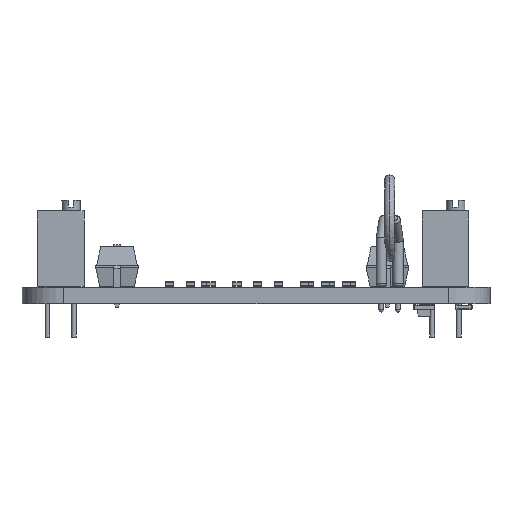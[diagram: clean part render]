
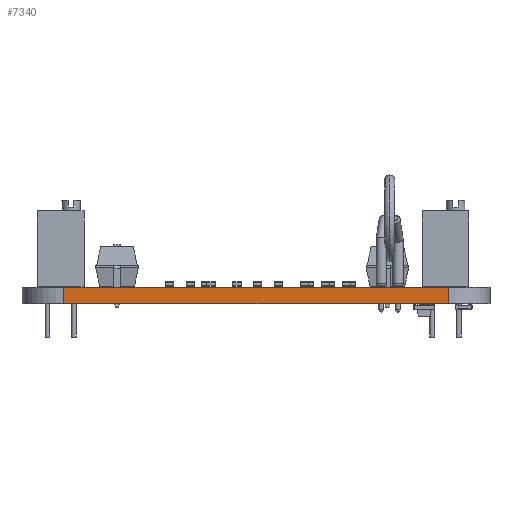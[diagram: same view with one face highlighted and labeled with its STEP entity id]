
A CAD part, left-side view. The second image highlights one B-rep face of the part: STEP entity #7340.
In plain terms, the highlighted planar face has unit normal (-1, 0, 0).
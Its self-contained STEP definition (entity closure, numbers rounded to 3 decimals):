
#6281 = VERTEX_POINT('',#6282);
#6282 = CARTESIAN_POINT('',(79.9,-60.325,0.));
#6289 = EDGE_CURVE('',#6290,#6281,#6292,.T.);
#6290 = VERTEX_POINT('',#6291);
#6291 = CARTESIAN_POINT('',(79.9,-97.325,0.));
#6292 = LINE('',#6293,#6294);
#6293 = CARTESIAN_POINT('',(79.9,-97.325,0.));
#6294 = VECTOR('',#6295,1.);
#6295 = DIRECTION('',(0.,1.,0.));
#6797 = VERTEX_POINT('',#6798);
#6798 = CARTESIAN_POINT('',(79.9,-60.325,1.6));
#6805 = EDGE_CURVE('',#6806,#6797,#6808,.T.);
#6806 = VERTEX_POINT('',#6807);
#6807 = CARTESIAN_POINT('',(79.9,-97.325,1.6));
#6808 = LINE('',#6809,#6810);
#6809 = CARTESIAN_POINT('',(79.9,-97.325,1.6));
#6810 = VECTOR('',#6811,1.);
#6811 = DIRECTION('',(0.,1.,0.));
#7310 = EDGE_CURVE('',#6281,#6797,#7311,.T.);
#7311 = LINE('',#7312,#7313);
#7312 = CARTESIAN_POINT('',(79.9,-60.325,0.));
#7313 = VECTOR('',#7314,1.);
#7314 = DIRECTION('',(0.,0.,1.));
#7340 = ADVANCED_FACE('',(#7341),#7352,.T.);
#7341 = FACE_BOUND('',#7342,.T.);
#7342 = EDGE_LOOP('',(#7343,#7349,#7350,#7351));
#7343 = ORIENTED_EDGE('',*,*,#7344,.T.);
#7344 = EDGE_CURVE('',#6290,#6806,#7345,.T.);
#7345 = LINE('',#7346,#7347);
#7346 = CARTESIAN_POINT('',(79.9,-97.325,0.));
#7347 = VECTOR('',#7348,1.);
#7348 = DIRECTION('',(0.,0.,1.));
#7349 = ORIENTED_EDGE('',*,*,#6805,.T.);
#7350 = ORIENTED_EDGE('',*,*,#7310,.F.);
#7351 = ORIENTED_EDGE('',*,*,#6289,.F.);
#7352 = PLANE('',#7353);
#7353 = AXIS2_PLACEMENT_3D('',#7354,#7355,#7356);
#7354 = CARTESIAN_POINT('',(79.9,-97.325,0.));
#7355 = DIRECTION('',(-1.,0.,0.));
#7356 = DIRECTION('',(0.,1.,0.));
